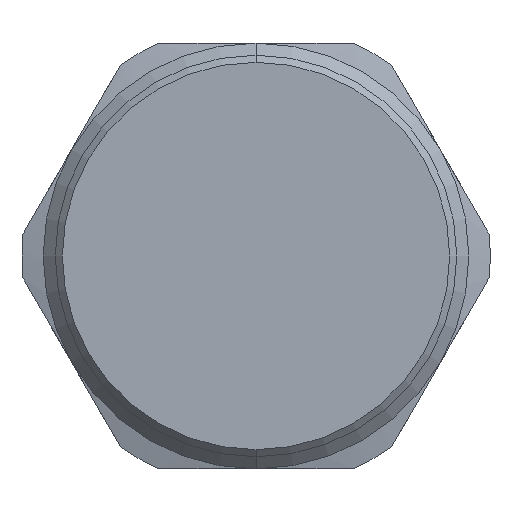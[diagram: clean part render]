
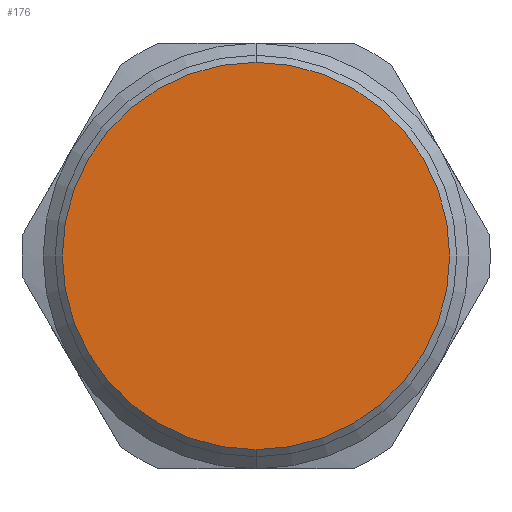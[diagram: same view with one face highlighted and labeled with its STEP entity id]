
A CAD part, front view. The second image highlights one B-rep face of the part: STEP entity #176.
In plain terms, the highlighted planar face has unit normal (0, -1, 0).
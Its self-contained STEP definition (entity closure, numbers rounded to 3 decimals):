
#151=CARTESIAN_POINT('',(0.0,-31.0,13.65));
#152=VERTEX_POINT('',#151);
#153=CARTESIAN_POINT('',(0.0,-31.0,-13.65));
#154=VERTEX_POINT('',#153);
#155=CARTESIAN_POINT('',(0.0,-31.0,0.0));
#156=DIRECTION('',(0.0,-1.0,0.0));
#157=DIRECTION('',(0.0,0.0,1.0));
#158=AXIS2_PLACEMENT_3D('',#155,#156,#157);
#159=CIRCLE('',#158,13.65);
#160=EDGE_CURVE('no 703',#152,#154,#159,.T.);
#161=ORIENTED_EDGE('',*,*,#160,.T.);
#162=CARTESIAN_POINT('',(0.0,-31.0,0.0));
#163=DIRECTION('',(0.0,-1.0,0.0));
#164=DIRECTION('',(0.0,0.0,1.0));
#165=AXIS2_PLACEMENT_3D('',#162,#163,#164);
#166=CIRCLE('',#165,13.65);
#167=EDGE_CURVE('no 707',#154,#152,#166,.T.);
#168=ORIENTED_EDGE('',*,*,#167,.T.);
#169=EDGE_LOOP('',(#161,#168));
#170=FACE_OUTER_BOUND('',#169,.T.);
#171=CARTESIAN_POINT('',(0.0,-31.0,0.0));
#172=DIRECTION('',(0.0,1.0,0.0));
#173=DIRECTION('',(0.0,0.0,1.0));
#174=AXIS2_PLACEMENT_3D('',#171,#172,#173);
#175=PLANE('',#174);
#176=ADVANCED_FACE('no 694',(#170),#175,.F.);
